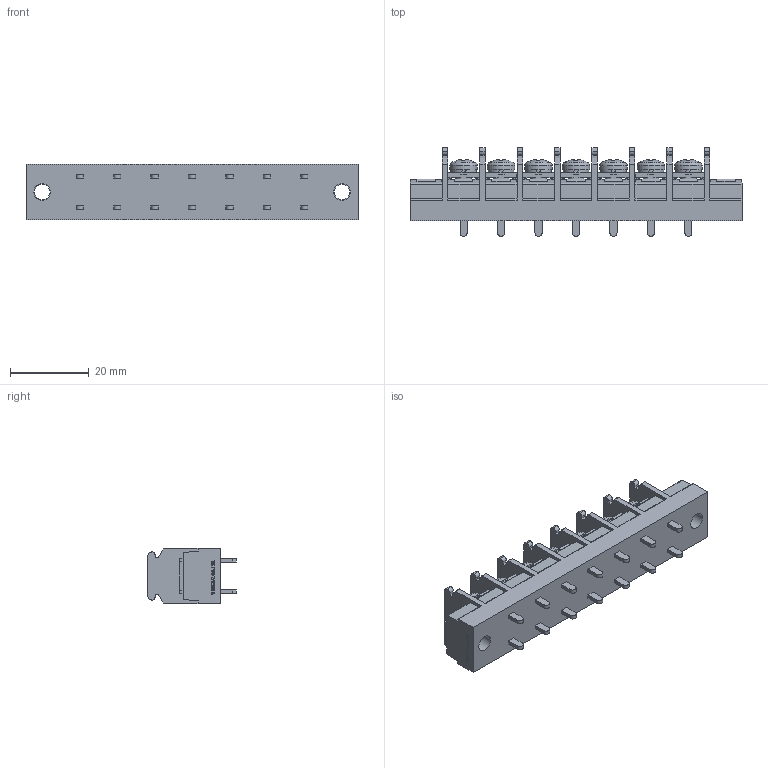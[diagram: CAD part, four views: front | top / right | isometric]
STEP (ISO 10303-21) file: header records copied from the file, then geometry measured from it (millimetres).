
FILE_DESCRIPTION(/* description */ ('Alibre Inc.'),/* implementation_level */ '2;1');
FILE_NAME(/* name */ 'export-ADB93F53-E78C-41DF-BCAC-67D3E71EFA73',/* time_stamp */ '2021-02-13T17:10:51+09:00',/* author */ (''),/* organization */ (''),/* preprocessor_version */ 'ST-DEVELOPER v17',/* originating_system */ 'Alibre',/* authorisation */ '');
FILE_SCHEMA (('CONFIG_CONTROL_DESIGN'));
Length unit declared in the file: millimetre
Bounding box: 84.2 x 22.5 x 14 mm (x, y, z)
Volume: 13542.8 mm3; surface area: 9194.5 mm2
Topology: 1 solids, 24 shells, 1301 faces, 3619 edges, 2383 vertices
Faces by surface type: plane 970, cylinder 171, bspline 104, cone 35, torus 14, sphere 7
Full cylindrical faces by diameter (mm): 4 x16, 4.2 x2, 7 x7
Entity records: 39594 total; most frequent: CARTESIAN_POINT 8201, ORIENTED_EDGE 7114, DIRECTION 5099, EDGE_CURVE 3557, VECTOR 2605, LINE 2605, VERTEX_POINT 2367, AXIS2_PLACEMENT_3D 1701
